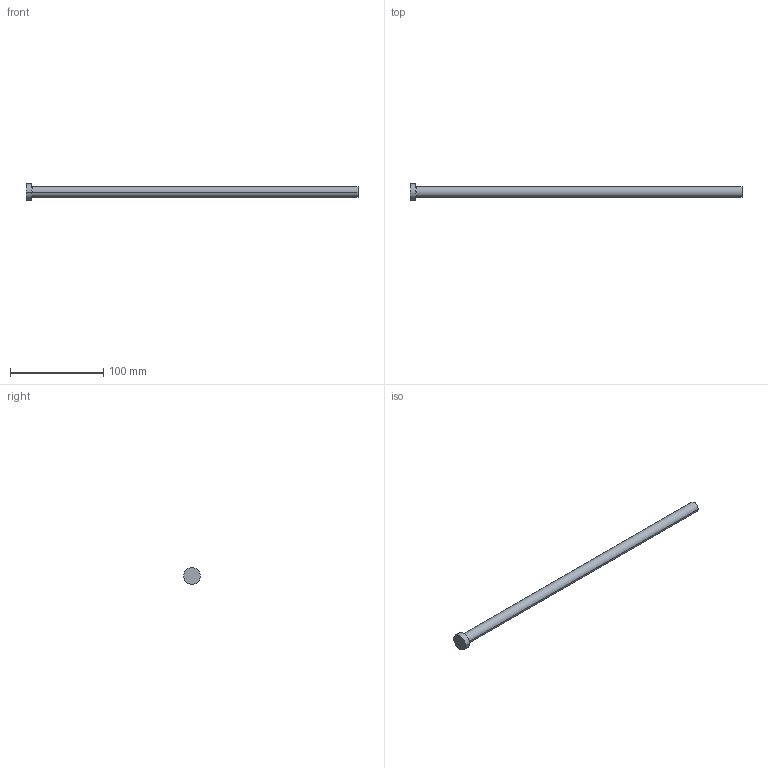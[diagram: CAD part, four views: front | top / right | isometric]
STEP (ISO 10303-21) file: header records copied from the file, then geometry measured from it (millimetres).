
FILE_DESCRIPTION (( 'STEP AP214' ), '1' );
FILE_NAME ('P30-14.STEP', '2020-03-12T10:32:03', ( '' ), ( '' ), 'SwSTEP 2.0', 'SolidWorks 2018', '' );
FILE_SCHEMA (( 'AUTOMOTIVE_DESIGN' ));
Length unit declared in the file: inch
Products named in the file (1): P30-14
Bounding box: 355.6 x 17.86 x 17.86 mm (x, y, z)
Volume: 37882.1 mm3; surface area: 13458.8 mm2
Topology: 1 solids, 1 shells, 13 faces, 24 edges, 14 vertices
Faces by surface type: cone 4, cylinder 4, plane 3, torus 2
Entity records: 366 total; most frequent: DIRECTION 68, CARTESIAN_POINT 52, ORIENTED_EDGE 48, AXIS2_PLACEMENT_3D 30, EDGE_CURVE 24, CIRCLE 16, VERTEX_POINT 14, EDGE_LOOP 14
